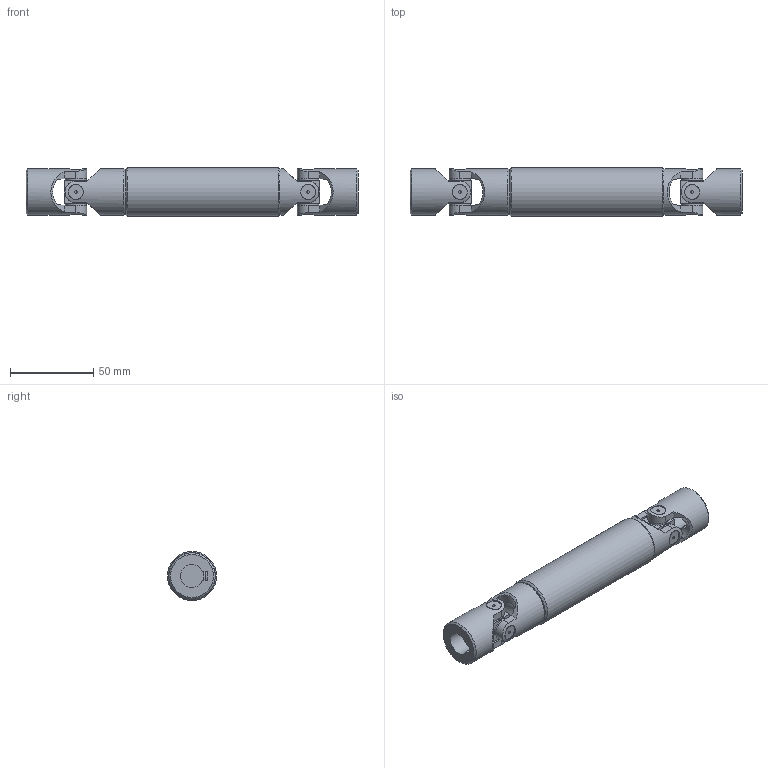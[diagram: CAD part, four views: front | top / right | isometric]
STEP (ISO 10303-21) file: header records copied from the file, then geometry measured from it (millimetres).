
FILE_DESCRIPTION(/* description */ ('EXTENSIBLE TRANSIMISSIONS Series G DIN 808 -2-'),/* implementation_level */ '2;1');
FILE_NAME(/* name */ '\\SRV2016\Societa\Stefano\Disegni 3D\00Catalogo 3D\03Trasmissioni standard GA\!05GA18\!05GA18_SG0A1418.stp',/* time_stamp */ '2022-01-31T15:38:26+01:00',/* author */ ('acquisti'),/* organization */ ('MARIOFERRI'),/* preprocessor_version */ 'ST-DEVELOPER v15.6',/* originating_system */ 'Autodesk Inventor 2015',/* authorisation */ '');
FILE_SCHEMA (('AUTOMOTIVE_DESIGN { 1 0 10303 214 3 1 1 }'));
Length unit declared in the file: millimetre
Products named in the file (5): 05G SFE; !05GA18 LAI; !05GA18 LCI; 05G MOC; !05GA18_SG0A1418
Assembly tree (6 placements, depth 2):
  !05GA18_SG0A1418
    05G SFE  x2
    !05GA18 LAI
    !05GA18 LCI
    05G MOC  x2
Bounding box: 200 x 29.5 x 29.5 mm (x, y, z)
Volume: 93694.2 mm3; surface area: 38273.1 mm2
Topology: 6 solids, 6 shells, 204 faces, 515 edges, 347 vertices
Faces by surface type: plane 106, cylinder 69, cone 25, torus 4
Full cylindrical faces by diameter (mm): 1.5 x8, 9 x8, 12.5 x8, 14 x1, 14.5 x2, 24 x1, 28 x4, 29.5 x1
Entity records: 5255 total; most frequent: CARTESIAN_POINT 1529, DIRECTION 751, ORIENTED_EDGE 724, EDGE_CURVE 362, AXIS2_PLACEMENT_3D 299, VERTEX_POINT 262, EDGE_LOOP 212, FACE_OUTER_BOUND 158
